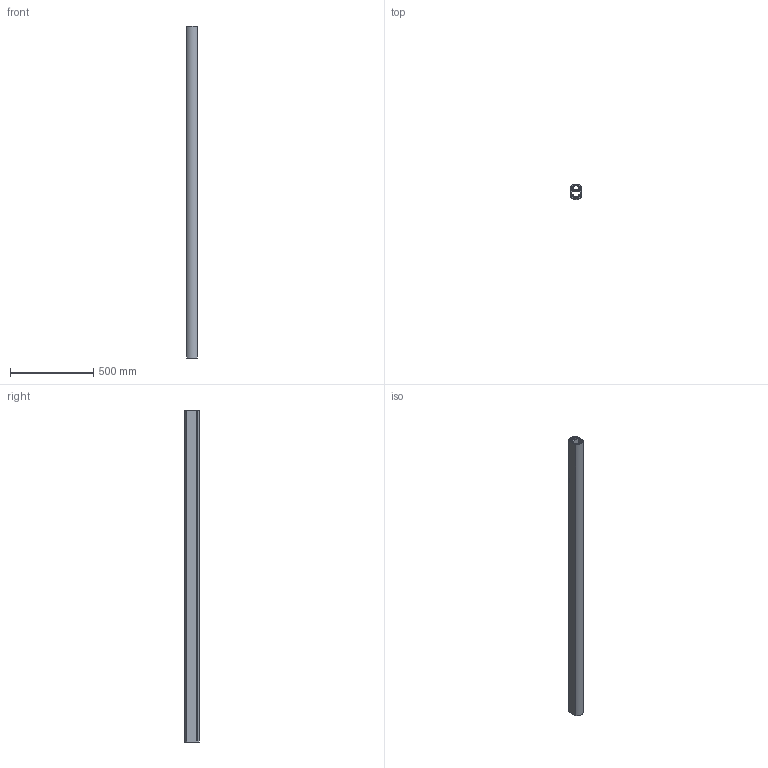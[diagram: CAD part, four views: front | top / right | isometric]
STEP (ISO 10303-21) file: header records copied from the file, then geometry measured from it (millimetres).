
FILE_DESCRIPTION((''),'2;1');
FILE_NAME('SCE-SA79T_ASM','2017-11-28T14:41:49',('Eplan'),('SAGINAW CONTROL & ENGINEERING'),'CREO PARAMETRIC BY PTC INC, 2017260','CREO PARAMETRIC BY PTC INC, 2017260','');
FILE_SCHEMA(('AUTOMOTIVE_DESIGN { 1 0 10303 214 1 1 1 1 }'));
Length unit declared in the file: inch
Products named in the file (3): 11055_STANDARD; 40103_ABDECKPROFIL_EINGBAUT; SCE-SA79T_ASM
Assembly tree (2 placements, depth 2):
  SCE-SA79T_ASM
    11055_STANDARD
    40103_ABDECKPROFIL_EINGBAUT
Bounding box: 65 x 88.58 x 2000 mm (x, y, z)
Volume: 4648434.4 mm3; surface area: 1523335.3 mm2
Topology: 2 solids, 2 shells, 134 faces, 366 edges, 238 vertices
Faces by surface type: cylinder 74, plane 56, extrusion 4
Entity records: 5816 total; most frequent: CARTESIAN_POINT 799, DIRECTION 750, ORIENTED_EDGE 732, PRESENTATION_STYLE_ASSIGNMENT 399, STYLED_ITEM 368, CURVE_STYLE 366, EDGE_CURVE 366, AXIS2_PLACEMENT_3D 261
